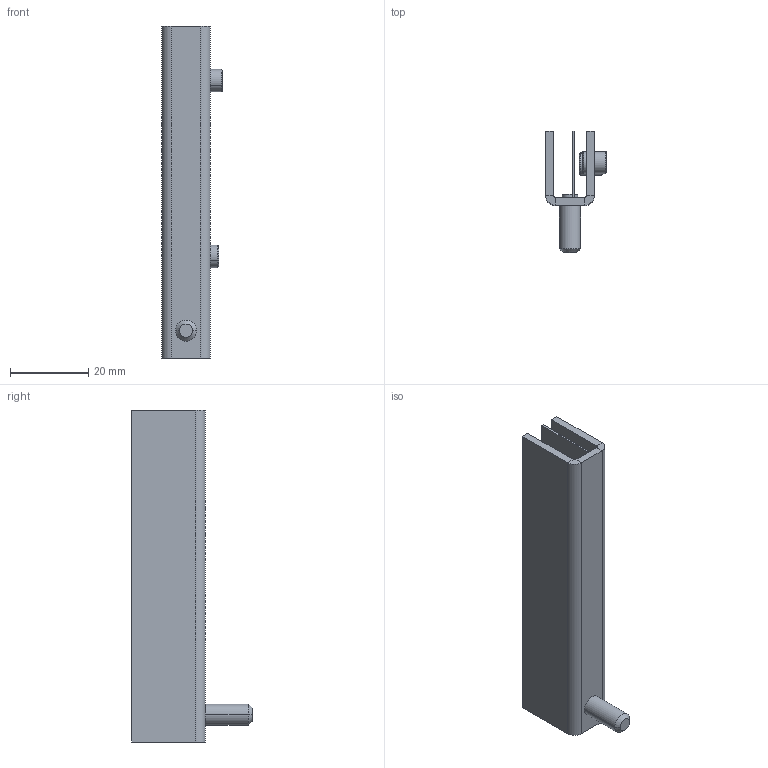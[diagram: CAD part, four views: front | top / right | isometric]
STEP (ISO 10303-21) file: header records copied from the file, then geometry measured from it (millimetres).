
FILE_DESCRIPTION (( 'STEP AP214' ), '1' );
FILE_NAME ('3.ST24.002.STEP', '2010-03-02T19:12:17', ( 'Techniczny' ), ( 'RST Roztocze' ), 'SwSTEP 2.0', 'SolidWorks 2010', '' );
FILE_SCHEMA (( 'AUTOMOTIVE_DESIGN' ));
Length unit declared in the file: millimetre
Products named in the file (5): 3.ST24.001.03; 3.ST24.001.02; 3.ST24.002; Imbus; 3.ST24.002.01
Assembly tree (5 placements, depth 2):
  3.ST24.002
    3.ST24.001.03
    3.ST24.002.01
    3.ST24.001.02
    Imbus  x2
Bounding box: 15.56 x 30.9 x 85 mm (x, y, z)
Volume: 8825.7 mm3; surface area: 11786.1 mm2
Topology: 5 solids, 5 shells, 91 faces, 194 edges, 112 vertices
Faces by surface type: plane 55, cylinder 20, cone 16
Entity records: 2064 total; most frequent: DIRECTION 346, CARTESIAN_POINT 306, ORIENTED_EDGE 288, EDGE_CURVE 144, AXIS2_PLACEMENT_3D 125, VECTOR 96, LINE 96, VERTEX_POINT 85
